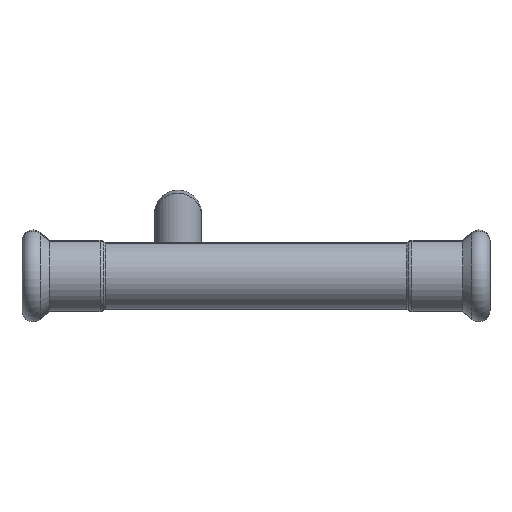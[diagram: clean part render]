
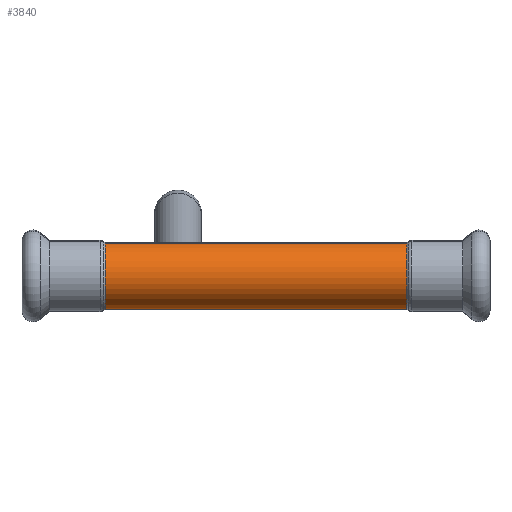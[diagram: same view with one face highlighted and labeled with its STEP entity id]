
A CAD part, top view. The second image highlights one B-rep face of the part: STEP entity #3840.
In plain terms, the highlighted cylindrical face has radius 8.5 mm (diameter 17 mm), a partial arc.
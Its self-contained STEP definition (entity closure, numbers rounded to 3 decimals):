
#3430=CARTESIAN_POINT('',(-54.183,13.523,0.));
#3440=DIRECTION('',(-1.,-0.,-0.));
#3450=DIRECTION('',(0.,1.,0.));
#3460=AXIS2_PLACEMENT_3D('',#3430,#3440,#3450);
#3470=CYLINDRICAL_SURFACE('',#3460,8.5);
#3480=CARTESIAN_POINT('',(-54.183,22.023,0.));
#3490=DIRECTION('',(-1.,-0.,-0.));
#3500=VECTOR('',#3490,1.);
#3510=LINE('',#3480,#3500);
#3520=CARTESIAN_POINT('',(-15.474,22.023,0.));
#3530=VERTEX_POINT('',#3520);
#3540=CARTESIAN_POINT('',(-92.892,22.023,0.));
#3550=VERTEX_POINT('',#3540);
#3560=EDGE_CURVE('',#3530,#3550,#3510,.T.);
#3570=ORIENTED_EDGE('',*,*,#3560,.T.);
#3580=CARTESIAN_POINT('',(-15.474,13.523,0.));
#3590=DIRECTION('',(1.,0.,0.));
#3600=DIRECTION('',(0.,-1.,-0.));
#3610=AXIS2_PLACEMENT_3D('',#3580,#3590,#3600);
#3620=CIRCLE('',#3610,8.5);
#3630=CARTESIAN_POINT('',(-15.474,5.023,
0.));
#3640=VERTEX_POINT('',#3630);
#3650=EDGE_CURVE('',#3530,#3640,#3620,.T.);
#3660=ORIENTED_EDGE('',*,*,#3650,.F.);
#3670=CARTESIAN_POINT('',(-54.183,5.023,
0.));
#3680=DIRECTION('',(-1.,-0.,-0.));
#3690=VECTOR('',#3680,1.);
#3700=LINE('',#3670,#3690);
#3710=CARTESIAN_POINT('',(-92.892,5.023,
0.));
#3720=VERTEX_POINT('',#3710);
#3730=EDGE_CURVE('',#3640,#3720,#3700,.T.);
#3740=ORIENTED_EDGE('',*,*,#3730,.F.);
#3750=CARTESIAN_POINT('',(-92.892,13.523,0.));
#3760=DIRECTION('',(1.,0.,0.));
#3770=DIRECTION('',(-0.,-1.,-0.));
#3780=AXIS2_PLACEMENT_3D('',#3750,#3760,#3770);
#3790=CIRCLE('',#3780,8.5);
#3800=EDGE_CURVE('',#3550,#3720,#3790,.T.);
#3810=ORIENTED_EDGE('',*,*,#3800,.T.);
#3820=EDGE_LOOP('',(#3810,#3740,#3660,#3570));
#3830=FACE_OUTER_BOUND('',#3820,.T.);
#3840=ADVANCED_FACE('',(#3830),#3470,.T.);
